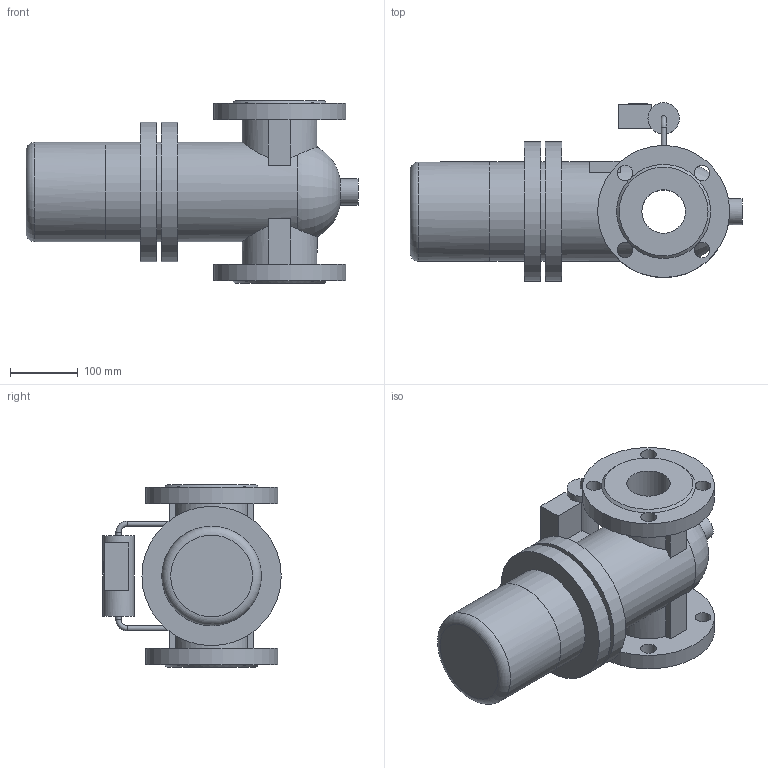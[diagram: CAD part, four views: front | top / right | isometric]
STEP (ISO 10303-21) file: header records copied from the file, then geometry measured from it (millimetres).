
FILE_DESCRIPTION(('STEP AP214'), '1');
FILE_NAME('Ôèëüòð ãàçà ÔÃ16-80Â', '', ('UNSPECIFIED'), ('UNSPECIFIED'), 'C3D Converter', 'C3D Toolkit', '');
FILE_SCHEMA(('AUTOMOTIVE_DESIGN { 1 0 10303 214 3 1 1}'));
Length unit declared in the file: millimetre
Bounding box: 490.24 x 263.57 x 270 mm (x, y, z)
Volume: 10103357.2 mm3; surface area: 549470.7 mm2
Topology: 2 solids, 2 shells, 94 faces, 250 edges, 166 vertices
Faces by surface type: plane 54, cylinder 34, torus 4, cone 2
Full cylindrical faces by diameter (mm): 7.714 x4, 23.143 x8, 38.571 x1, 46.286 x1, 64.286 x1, 146.571 x3, 146.857 x1, 195 x2, 205.714 x2
Entity records: 4826 total; most frequent: CARTESIAN_POINT 1705, DIRECTION 486, ORIENTED_EDGE 442, EDGE_CURVE 221, AXIS2_PLACEMENT_3D 193, VERTEX_POINT 166, EDGE_LOOP 149, FACE_BOUND 111
